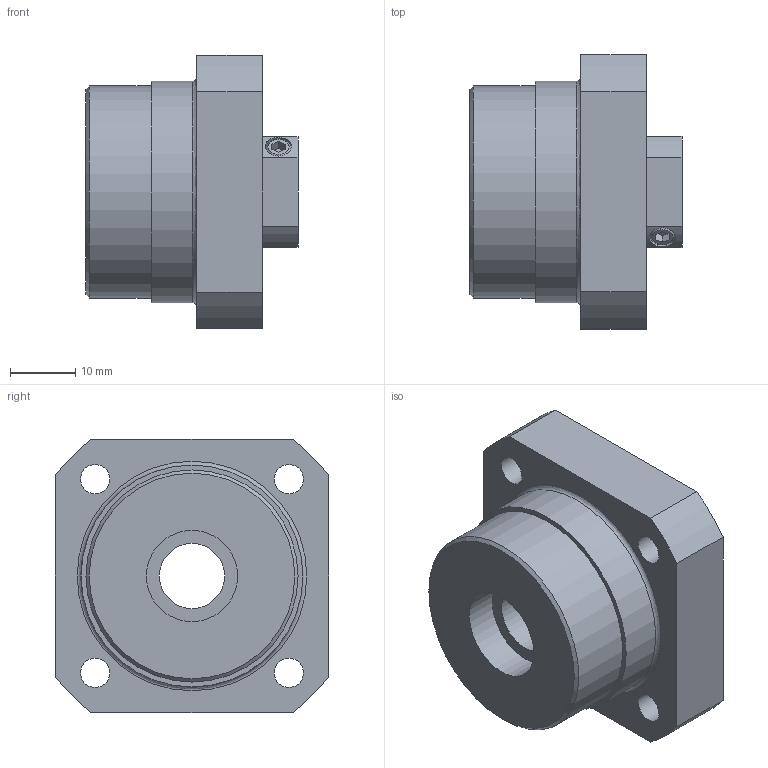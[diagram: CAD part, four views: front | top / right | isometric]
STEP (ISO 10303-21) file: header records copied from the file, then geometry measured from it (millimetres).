
FILE_DESCRIPTION((''),'2;1');
FILE_NAME('D:\製品 (図面)\カタログ用3D\ネジ関連\STEP形式\SUF\SUF10.stp','2010-06-02T14:48:27',('Tsuchiya'),(''),'Autodesk Inventor 10','Autodesk Inventor 10','');
FILE_SCHEMA(('AUTOMOTIVE_DESIGN { 1 0 10303 214 1 1 1 1 }'));
Length unit declared in the file: millimetre
Products named in the file (1): SUF10
Bounding box: 32.5 x 42 x 42 mm (x, y, z)
Volume: 28758.4 mm3; surface area: 9218.8 mm2
Topology: 1 solids, 1 shells, 144 faces, 345 edges, 228 vertices
Faces by surface type: plane 69, cylinder 56, bspline 13, torus 4, cone 2
Full cylindrical faces by diameter (mm): 4 x1, 8.4 x4, 8.6 x4, 10 x1, 14 x1, 14.5 x1, 16 x1, 21 x1, 32.5 x1, 34 x1
Entity records: 4303 total; most frequent: CARTESIAN_POINT 939, DIRECTION 710, ORIENTED_EDGE 628, EDGE_CURVE 314, AXIS2_PLACEMENT_3D 266, VERTEX_POINT 228, EDGE_LOOP 210, VECTOR 178
